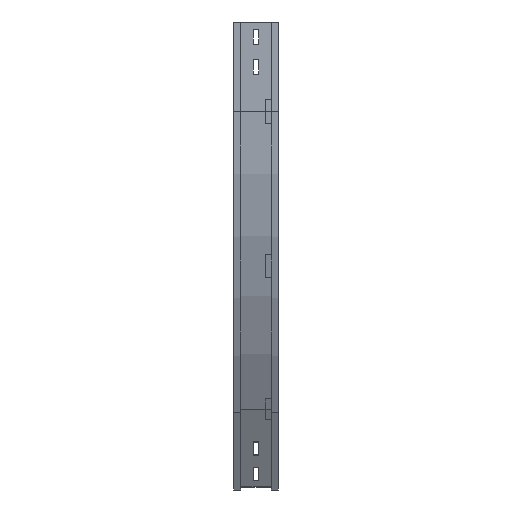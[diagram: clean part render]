
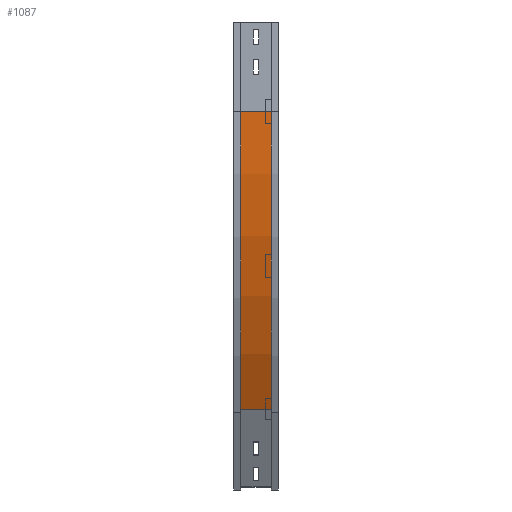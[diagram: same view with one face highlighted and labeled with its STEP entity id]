
A CAD part, left-side view. The second image highlights one B-rep face of the part: STEP entity #1087.
In plain terms, the highlighted cylindrical face has radius 1000 mm (diameter 2000 mm), a partial arc.
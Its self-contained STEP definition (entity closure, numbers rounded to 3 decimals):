
#101 = ORIENTED_EDGE ( 'NONE', *, *, #342, .F. ) ;
#342 = EDGE_CURVE ( 'NONE', #3026, #3371, #913, .T. ) ;
#487 = CIRCLE ( 'NONE', #2430, 1000. ) ;
#635 = EDGE_CURVE ( 'NONE', #3371, #2608, #487, .T. ) ;
#659 = EDGE_LOOP ( 'NONE', ( #2233, #101, #3160, #3210 ) ) ;
#689 = CIRCLE ( 'NONE', #1916, 1000. ) ;
#766 = EDGE_CURVE ( 'NONE', #2238, #2608, #3253, .T. ) ;
#838 = CARTESIAN_POINT ( 'NONE',  ( 1009., 12., -150. ) ) ;
#913 = LINE ( 'NONE', #2513, #3200 ) ;
#1087 = ADVANCED_FACE ( 'NONE', ( #1873 ), #2919, .T. ) ;
#1120 = DIRECTION ( 'NONE',  ( -1., 0., 0. ) ) ;
#1365 = DIRECTION ( 'NONE',  ( 0., -1., 0. ) ) ;
#1412 = DIRECTION ( 'NONE',  ( 0., -1., 0. ) ) ;
#1603 = DIRECTION ( 'NONE',  ( -1., 0., 0. ) ) ;
#1638 = CARTESIAN_POINT ( 'NONE',  ( 9., 63., -150. ) ) ;
#1726 = CARTESIAN_POINT ( 'NONE',  ( 142.975, 63., -650. ) ) ;
#1873 = FACE_OUTER_BOUND ( 'NONE', #659, .T. ) ;
#1913 = CARTESIAN_POINT ( 'NONE',  ( 1009., 0., -150. ) ) ;
#1916 = AXIS2_PLACEMENT_3D ( 'NONE', #2714, #2163, #1120 ) ;
#1967 = DIRECTION ( 'NONE',  ( 0., -1., 0. ) ) ;
#2163 = DIRECTION ( 'NONE',  ( 0., -1., 0. ) ) ;
#2233 = ORIENTED_EDGE ( 'NONE', *, *, #635, .F. ) ;
#2238 = VERTEX_POINT ( 'NONE', #1726 ) ;
#2430 = AXIS2_PLACEMENT_3D ( 'NONE', #838, #1365, #1603 ) ;
#2513 = CARTESIAN_POINT ( 'NONE',  ( 9., 12., -150. ) ) ;
#2608 = VERTEX_POINT ( 'NONE', #3241 ) ;
#2661 = DIRECTION ( 'NONE',  ( 0., 0., -1. ) ) ;
#2714 = CARTESIAN_POINT ( 'NONE',  ( 1009., 63., -150. ) ) ;
#2919 = CYLINDRICAL_SURFACE ( 'NONE', #3145, 1000. ) ;
#2992 = CARTESIAN_POINT ( 'NONE',  ( 142.975, 12., -650. ) ) ;
#3020 = CARTESIAN_POINT ( 'NONE',  ( 9., 12., -150. ) ) ;
#3026 = VERTEX_POINT ( 'NONE', #1638 ) ;
#3027 = EDGE_CURVE ( 'NONE', #3026, #2238, #689, .T. ) ;
#3145 = AXIS2_PLACEMENT_3D ( 'NONE', #1913, #3235, #2661 ) ;
#3160 = ORIENTED_EDGE ( 'NONE', *, *, #3027, .T. ) ;
#3200 = VECTOR ( 'NONE', #1967, 1000. ) ;
#3210 = ORIENTED_EDGE ( 'NONE', *, *, #766, .T. ) ;
#3235 = DIRECTION ( 'NONE',  ( 0., -1., 0. ) ) ;
#3241 = CARTESIAN_POINT ( 'NONE',  ( 142.975, 12., -650. ) ) ;
#3253 = LINE ( 'NONE', #2992, #3256 ) ;
#3256 = VECTOR ( 'NONE', #1412, 1000. ) ;
#3371 = VERTEX_POINT ( 'NONE', #3020 ) ;
